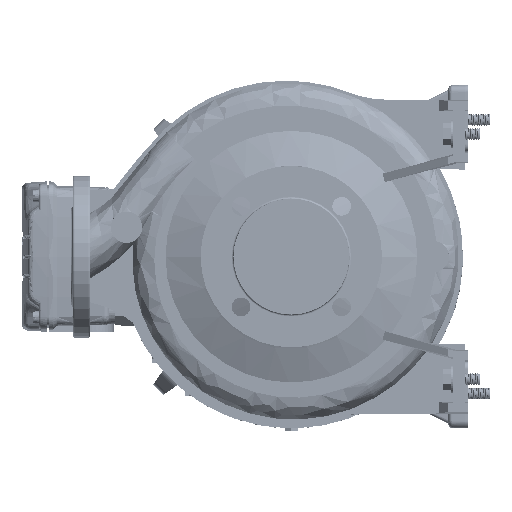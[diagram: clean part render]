
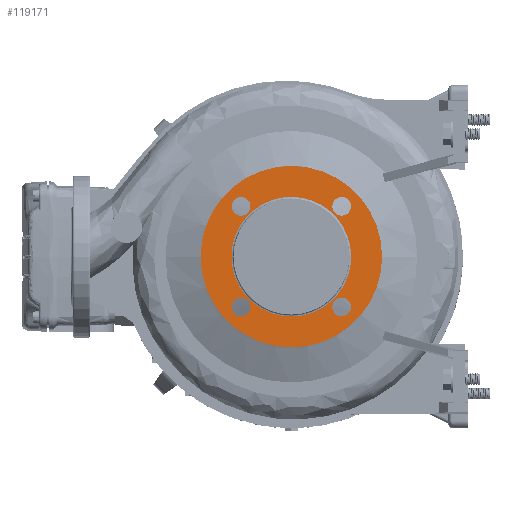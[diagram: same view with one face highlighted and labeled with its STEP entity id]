
A CAD part, left-side view. The second image highlights one B-rep face of the part: STEP entity #119171.
In plain terms, the highlighted planar face has unit normal (-1, 0, 0).
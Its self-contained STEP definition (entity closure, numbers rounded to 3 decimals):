
#1267 = EDGE_LOOP ( 'NONE', ( #181185, #220112 ) ) ;
#1347 = CIRCLE ( 'NONE', #34428, 61. ) ;
#1507 = EDGE_LOOP ( 'NONE', ( #110162, #28393 ) ) ;
#2557 = CARTESIAN_POINT ( 'NONE',  ( -145.897, 180.258, 400.158 ) ) ;
#3702 = DIRECTION ( 'NONE',  ( -1., 0., 0. ) ) ;
#4909 = CARTESIAN_POINT ( 'NONE',  ( -145.897, 170.758, 297.627 ) ) ;
#5055 = VERTEX_POINT ( 'NONE', #157851 ) ;
#5594 = CIRCLE ( 'NONE', #199652, 9.5 ) ;
#5989 = FACE_BOUND ( 'NONE', #1267, .T. ) ;
#13940 = EDGE_CURVE ( 'NONE', #127842, #14042, #80812, .T. ) ;
#13978 = VERTEX_POINT ( 'NONE', #123795 ) ;
#14042 = VERTEX_POINT ( 'NONE', #106617 ) ;
#15076 = AXIS2_PLACEMENT_3D ( 'NONE', #25724, #95640, #167774 ) ;
#15282 = DIRECTION ( 'NONE',  ( 1., 0., 0. ) ) ;
#16029 = EDGE_LOOP ( 'NONE', ( #67719, #114171 ) ) ;
#19448 = VERTEX_POINT ( 'NONE', #212423 ) ;
#20006 = EDGE_CURVE ( 'NONE', #191839, #201846, #43960, .T. ) ;
#20818 = DIRECTION ( 'NONE',  ( -1., 0., 0. ) ) ;
#21695 = CIRCLE ( 'NONE', #72854, 9.5 ) ;
#25457 = FACE_BOUND ( 'NONE', #62292, .T. ) ;
#25724 = CARTESIAN_POINT ( 'NONE',  ( -145.897, 282.788, 297.627 ) ) ;
#27113 = EDGE_CURVE ( 'NONE', #205447, #5055, #1347, .T. ) ;
#27964 = AXIS2_PLACEMENT_3D ( 'NONE', #174433, #20818, #106763 ) ;
#28393 = ORIENTED_EDGE ( 'NONE', *, *, #108819, .F. ) ;
#28774 = EDGE_CURVE ( 'NONE', #19448, #190999, #5594, .T. ) ;
#28952 = CIRCLE ( 'NONE', #157032, 61. ) ;
#29151 = VERTEX_POINT ( 'NONE', #92462 ) ;
#31064 = EDGE_CURVE ( 'NONE', #183725, #101766, #56941, .T. ) ;
#32626 = ORIENTED_EDGE ( 'NONE', *, *, #157439, .F. ) ;
#33327 = AXIS2_PLACEMENT_3D ( 'NONE', #191731, #15282, #136758 ) ;
#34428 = AXIS2_PLACEMENT_3D ( 'NONE', #65371, #117000, #82586 ) ;
#37538 = DIRECTION ( 'NONE',  ( -1., 0., 0. ) ) ;
#37732 = DIRECTION ( 'NONE',  ( -1., 0., 0. ) ) ;
#43960 = CIRCLE ( 'NONE', #109734, 92.5 ) ;
#45599 = DIRECTION ( 'NONE',  ( 0., 1., 0. ) ) ;
#47107 = DIRECTION ( 'NONE',  ( -1., 0., 0. ) ) ;
#53602 = DIRECTION ( 'NONE',  ( 0., 1., 0. ) ) ;
#54747 = CARTESIAN_POINT ( 'NONE',  ( -145.897, 292.523, 348.893 ) ) ;
#56410 = CARTESIAN_POINT ( 'NONE',  ( -145.897, 282.788, 297.627 ) ) ;
#56941 = CIRCLE ( 'NONE', #97215, 9.5 ) ;
#58013 = ORIENTED_EDGE ( 'NONE', *, *, #20006, .F. ) ;
#58689 = FACE_OUTER_BOUND ( 'NONE', #107731, .T. ) ;
#62292 = EDGE_LOOP ( 'NONE', ( #98976, #195165 ) ) ;
#62634 = AXIS2_PLACEMENT_3D ( 'NONE', #56410, #3702, #146874 ) ;
#65371 = CARTESIAN_POINT ( 'NONE',  ( -145.897, 231.523, 348.893 ) ) ;
#67719 = ORIENTED_EDGE ( 'NONE', *, *, #28774, .F. ) ;
#72854 = AXIS2_PLACEMENT_3D ( 'NONE', #202622, #168192, #45599 ) ;
#73383 = EDGE_CURVE ( 'NONE', #190999, #19448, #218357, .T. ) ;
#73557 = CIRCLE ( 'NONE', #33327, 92.5 ) ;
#77009 = FACE_BOUND ( 'NONE', #16029, .T. ) ;
#80812 = CIRCLE ( 'NONE', #15076, 9.5 ) ;
#82586 = DIRECTION ( 'NONE',  ( 0., 1., 0. ) ) ;
#83226 = EDGE_CURVE ( 'NONE', #101766, #183725, #21695, .T. ) ;
#92462 = CARTESIAN_POINT ( 'NONE',  ( -145.897, 180.258, 409.658 ) ) ;
#94273 = DIRECTION ( 'NONE',  ( 0., 1., 0. ) ) ;
#95640 = DIRECTION ( 'NONE',  ( -1., 0., 0. ) ) ;
#95654 = EDGE_CURVE ( 'NONE', #29151, #13978, #115274, .T. ) ;
#97215 = AXIS2_PLACEMENT_3D ( 'NONE', #210640, #37538, #53602 ) ;
#98976 = ORIENTED_EDGE ( 'NONE', *, *, #27113, .T. ) ;
#99078 = CARTESIAN_POINT ( 'NONE',  ( -145.897, 324.023, 348.893 ) ) ;
#101766 = VERTEX_POINT ( 'NONE', #116587 ) ;
#106617 = CARTESIAN_POINT ( 'NONE',  ( -145.897, 282.788, 288.127 ) ) ;
#106763 = DIRECTION ( 'NONE',  ( 0., -1., 0. ) ) ;
#107731 = EDGE_LOOP ( 'NONE', ( #147423, #58013 ) ) ;
#108033 = CARTESIAN_POINT ( 'NONE',  ( -145.897, 292.523, 348.893 ) ) ;
#108819 = EDGE_CURVE ( 'NONE', #14042, #127842, #135965, .T. ) ;
#109734 = AXIS2_PLACEMENT_3D ( 'NONE', #112521, #115895, #131946 ) ;
#110162 = ORIENTED_EDGE ( 'NONE', *, *, #13940, .F. ) ;
#110283 = DIRECTION ( 'NONE',  ( -1., 0., 0. ) ) ;
#112521 = CARTESIAN_POINT ( 'NONE',  ( -145.897, 231.523, 348.893 ) ) ;
#114171 = ORIENTED_EDGE ( 'NONE', *, *, #73383, .F. ) ;
#115274 = CIRCLE ( 'NONE', #199371, 9.5 ) ;
#115895 = DIRECTION ( 'NONE',  ( 1., 0., 0. ) ) ;
#116587 = CARTESIAN_POINT ( 'NONE',  ( -145.897, 189.758, 297.627 ) ) ;
#117000 = DIRECTION ( 'NONE',  ( 1., 0., 0. ) ) ;
#119171 = ADVANCED_FACE ( 'NONE', ( #126344, #5989, #215724, #77009, #25457, #58689 ), #159621, .T. ) ;
#121907 = CIRCLE ( 'NONE', #213388, 9.5 ) ;
#123795 = CARTESIAN_POINT ( 'NONE',  ( -145.897, 180.258, 390.658 ) ) ;
#126344 = FACE_BOUND ( 'NONE', #1507, .T. ) ;
#127083 = ORIENTED_EDGE ( 'NONE', *, *, #95654, .F. ) ;
#127842 = VERTEX_POINT ( 'NONE', #218173 ) ;
#131946 = DIRECTION ( 'NONE',  ( 0., 1., 0. ) ) ;
#135965 = CIRCLE ( 'NONE', #62634, 9.5 ) ;
#136758 = DIRECTION ( 'NONE',  ( 0., 1., 0. ) ) ;
#145856 = CARTESIAN_POINT ( 'NONE',  ( -145.897, 231.523, 348.893 ) ) ;
#146874 = DIRECTION ( 'NONE',  ( 0., 0., 1. ) ) ;
#147423 = ORIENTED_EDGE ( 'NONE', *, *, #157245, .F. ) ;
#148026 = DIRECTION ( 'NONE',  ( -1., 0., 0. ) ) ;
#149013 = AXIS2_PLACEMENT_3D ( 'NONE', #108033, #148026, #200788 ) ;
#152757 = EDGE_CURVE ( 'NONE', #5055, #205447, #28952, .T. ) ;
#157032 = AXIS2_PLACEMENT_3D ( 'NONE', #145856, #183671, #94273 ) ;
#157245 = EDGE_CURVE ( 'NONE', #201846, #191839, #73557, .T. ) ;
#157439 = EDGE_CURVE ( 'NONE', #13978, #29151, #121907, .T. ) ;
#157851 = CARTESIAN_POINT ( 'NONE',  ( -145.897, 170.523, 348.893 ) ) ;
#159621 = PLANE ( 'NONE',  #149013 ) ;
#167774 = DIRECTION ( 'NONE',  ( 0., 0., 1. ) ) ;
#168192 = DIRECTION ( 'NONE',  ( -1., 0., 0. ) ) ;
#170764 = CARTESIAN_POINT ( 'NONE',  ( -145.897, 282.788, 400.158 ) ) ;
#172835 = DIRECTION ( 'NONE',  ( 0., 0., -1. ) ) ;
#174433 = CARTESIAN_POINT ( 'NONE',  ( -145.897, 282.788, 400.158 ) ) ;
#175481 = EDGE_LOOP ( 'NONE', ( #127083, #32626 ) ) ;
#180192 = DIRECTION ( 'NONE',  ( 0., 0., -1. ) ) ;
#181185 = ORIENTED_EDGE ( 'NONE', *, *, #31064, .F. ) ;
#183671 = DIRECTION ( 'NONE',  ( 1., 0., 0. ) ) ;
#183725 = VERTEX_POINT ( 'NONE', #4909 ) ;
#190999 = VERTEX_POINT ( 'NONE', #212421 ) ;
#191731 = CARTESIAN_POINT ( 'NONE',  ( -145.897, 231.523, 348.893 ) ) ;
#191839 = VERTEX_POINT ( 'NONE', #222882 ) ;
#195165 = ORIENTED_EDGE ( 'NONE', *, *, #152757, .T. ) ;
#199371 = AXIS2_PLACEMENT_3D ( 'NONE', #220162, #47107, #172835 ) ;
#199652 = AXIS2_PLACEMENT_3D ( 'NONE', #170764, #37732, #213062 ) ;
#200788 = DIRECTION ( 'NONE',  ( 0., -1., 0. ) ) ;
#201846 = VERTEX_POINT ( 'NONE', #99078 ) ;
#202622 = CARTESIAN_POINT ( 'NONE',  ( -145.897, 180.258, 297.627 ) ) ;
#205447 = VERTEX_POINT ( 'NONE', #54747 ) ;
#210640 = CARTESIAN_POINT ( 'NONE',  ( -145.897, 180.258, 297.627 ) ) ;
#212421 = CARTESIAN_POINT ( 'NONE',  ( -145.897, 292.288, 400.158 ) ) ;
#212423 = CARTESIAN_POINT ( 'NONE',  ( -145.897, 273.288, 400.158 ) ) ;
#213062 = DIRECTION ( 'NONE',  ( 0., -1., 0. ) ) ;
#213388 = AXIS2_PLACEMENT_3D ( 'NONE', #2557, #110283, #180192 ) ;
#215724 = FACE_BOUND ( 'NONE', #175481, .T. ) ;
#218173 = CARTESIAN_POINT ( 'NONE',  ( -145.897, 282.788, 307.127 ) ) ;
#218357 = CIRCLE ( 'NONE', #27964, 9.5 ) ;
#220112 = ORIENTED_EDGE ( 'NONE', *, *, #83226, .F. ) ;
#220162 = CARTESIAN_POINT ( 'NONE',  ( -145.897, 180.258, 400.158 ) ) ;
#222882 = CARTESIAN_POINT ( 'NONE',  ( -145.897, 139.023, 348.893 ) ) ;
